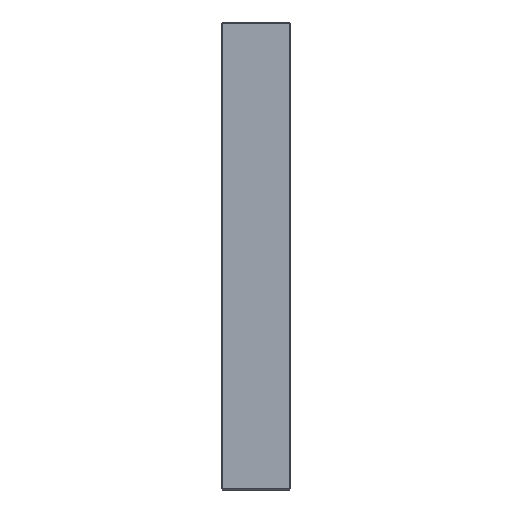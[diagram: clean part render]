
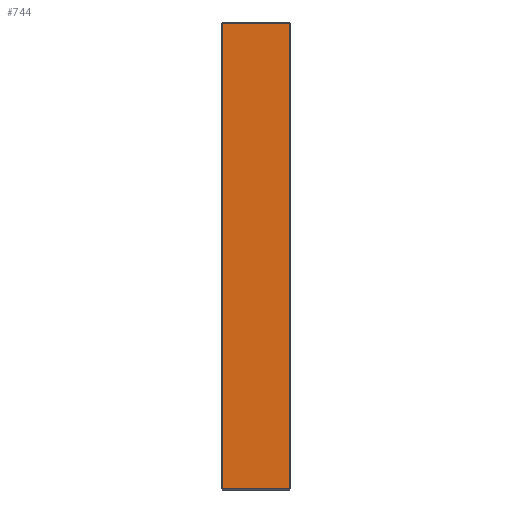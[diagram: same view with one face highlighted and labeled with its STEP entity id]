
A CAD part, left-side view. The second image highlights one B-rep face of the part: STEP entity #744.
In plain terms, the highlighted planar face has unit normal (-1, 0, 0).
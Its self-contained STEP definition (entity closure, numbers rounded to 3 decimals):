
#57 = CARTESIAN_POINT ( 'NONE',  ( -223., 1., -222. ) ) ;
#125 = CARTESIAN_POINT ( 'NONE',  ( -223., 65., -222. ) ) ;
#141 = VECTOR ( 'NONE', #574, 1000. ) ;
#145 = FACE_OUTER_BOUND ( 'NONE', #369, .T. ) ;
#341 = CARTESIAN_POINT ( 'NONE',  ( -223., 66., -222. ) ) ;
#369 = EDGE_LOOP ( 'NONE', ( #959, #2419, #1768, #609 ) ) ;
#371 = VECTOR ( 'NONE', #1167, 1000. ) ;
#574 = DIRECTION ( 'NONE',  ( 0., -1., 0. ) ) ;
#609 = ORIENTED_EDGE ( 'NONE', *, *, #2522, .T. ) ;
#713 = LINE ( 'NONE', #341, #141 ) ;
#744 = ADVANCED_FACE ( 'NONE', ( #145 ), #2070, .F. ) ;
#749 = VERTEX_POINT ( 'NONE', #57 ) ;
#762 = DIRECTION ( 'NONE',  ( 0., 0., -1. ) ) ;
#807 = CARTESIAN_POINT ( 'NONE',  ( -223., 66., 222. ) ) ;
#830 = VECTOR ( 'NONE', #2017, 1000. ) ;
#920 = LINE ( 'NONE', #807, #371 ) ;
#959 = ORIENTED_EDGE ( 'NONE', *, *, #2320, .T. ) ;
#998 = CARTESIAN_POINT ( 'NONE',  ( -223., 65., 222. ) ) ;
#1036 = VERTEX_POINT ( 'NONE', #998 ) ;
#1080 = VERTEX_POINT ( 'NONE', #2598 ) ;
#1167 = DIRECTION ( 'NONE',  ( 0., 1., 0. ) ) ;
#1181 = EDGE_CURVE ( 'NONE', #2143, #749, #713, .T. ) ;
#1418 = DIRECTION ( 'NONE',  ( 0., 0., -1. ) ) ;
#1446 = VECTOR ( 'NONE', #1418, 1000. ) ;
#1480 = AXIS2_PLACEMENT_3D ( 'NONE', #2050, #2555, #762 ) ;
#1634 = CARTESIAN_POINT ( 'NONE',  ( -223., 65., 223. ) ) ;
#1768 = ORIENTED_EDGE ( 'NONE', *, *, #1181, .T. ) ;
#2017 = DIRECTION ( 'NONE',  ( 0., 0., 1. ) ) ;
#2050 = CARTESIAN_POINT ( 'NONE',  ( -223., 66., 223. ) ) ;
#2070 = PLANE ( 'NONE',  #1480 ) ;
#2143 = VERTEX_POINT ( 'NONE', #125 ) ;
#2192 = CARTESIAN_POINT ( 'NONE',  ( -223., 1., 223. ) ) ;
#2320 = EDGE_CURVE ( 'NONE', #1080, #1036, #920, .T. ) ;
#2415 = LINE ( 'NONE', #2192, #830 ) ;
#2419 = ORIENTED_EDGE ( 'NONE', *, *, #2644, .T. ) ;
#2522 = EDGE_CURVE ( 'NONE', #749, #1080, #2415, .T. ) ;
#2555 = DIRECTION ( 'NONE',  ( 1., 0., 0. ) ) ;
#2576 = LINE ( 'NONE', #1634, #1446 ) ;
#2598 = CARTESIAN_POINT ( 'NONE',  ( -223., 1., 222. ) ) ;
#2644 = EDGE_CURVE ( 'NONE', #1036, #2143, #2576, .T. ) ;
